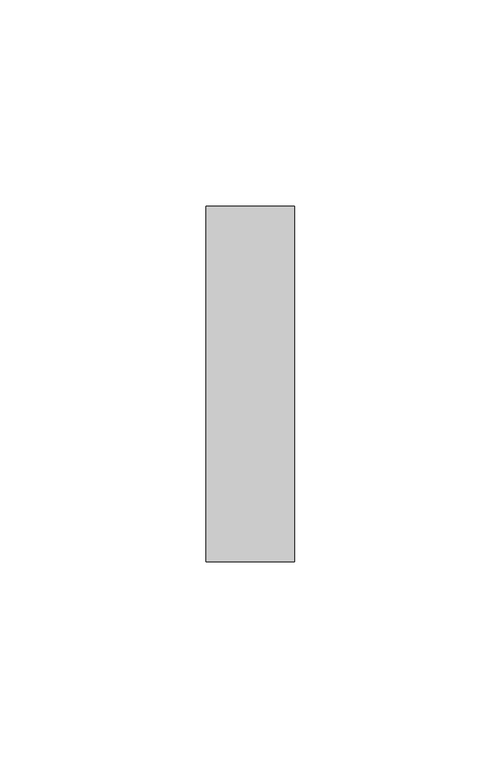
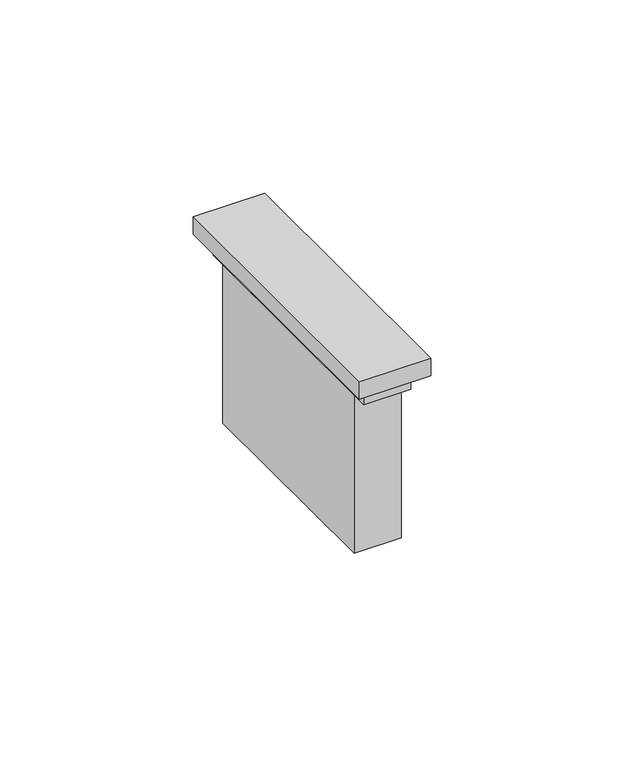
"""IFC4 building model written with IfcOpenShell, lengths in millimetres: proxy geometry, BT_LN-SegnalazioneAcustica_Suoneria_Ronzatore : Suoneria_Ronzatore - Art. K4351V230 - 1M - Cover Sabbia."""

from ifc_helpers import new_model, si_unit, frame, origin, origin_with_axes, place, context, project, spatial, polyline, outline, extrude, source, transform, mapped, element, save


def communication_devices_3eb54693(model_context):
    return source(origin(), model_context, "Body", "SweptSolid", [
        extrude(outline(polyline([(-10.7, -43.0), (-10.7, 43.0), (10.7, 43.0), (10.7, -43.0), (-10.7, -43.0)])), frame((0.0, 0.0, 55.5), z_axis=(0.0, 0.0, 1.0), x_axis=(1.0, 0.0, 0.0)), (0.0, 0.0, 1.0), 5.5),
        extrude(outline(polyline([(-7.0, 39.0), (7.0, 39.0), (7.0, -39.0), (-7.0, -39.0), (-7.0, 39.0)])), frame((0.0, 0.0, 50.0), z_axis=(0.0, 0.0, 1.0), x_axis=(1.0, 0.0, 0.0)), (0.0, 0.0, 1.0), 5.5),
        extrude(outline(polyline([(-7.0, 34.0), (7.0, 34.0), (7.0, -34.0), (-7.0, -34.0), (-7.0, 34.0)])), origin_with_axes(), (0.0, 0.0, 1.0), 50.0),
    ])


if __name__ == "__main__":
    model = new_model("IFC4")
    model_context = context("Model", 3, world=origin())
    ifc_project = project(units=[si_unit("LENGTHUNIT", "METRE", prefix="MILLI")], contexts=[model_context])
    site = spatial("IfcSite", under=ifc_project)
    building = spatial("IfcBuilding", under=site)
    placement = place(None, origin())
    communication_devices_shape = communication_devices_3eb54693(model_context)
    element("IfcBuildingElementProxy", 1, Name="BT_LN-SegnalazioneAcustica_Suoneria_Ronzatore : Suoneria_Ronzatore - Art. K4351V230 - 1M - Cover Sabbia", ObjectType="BT_LN-SegnalazioneAcustica_Suoneria_Ronzatore : Suoneria_Ronzatore - Art. K4351V230 - 1M - Cover Sabbia", at=placement, inside=building, context=model_context, shape_type="MappedRepresentation", body=[
        mapped(communication_devices_shape, transform((0.0, 0.0, 0.0), x_axis=(1.0, 0.0, 0.0), y_axis=(0.0, 1.0, 0.0), z_axis=(0.0, 0.0, 1.0))),
    ])
    save(model, "model.ifc")
